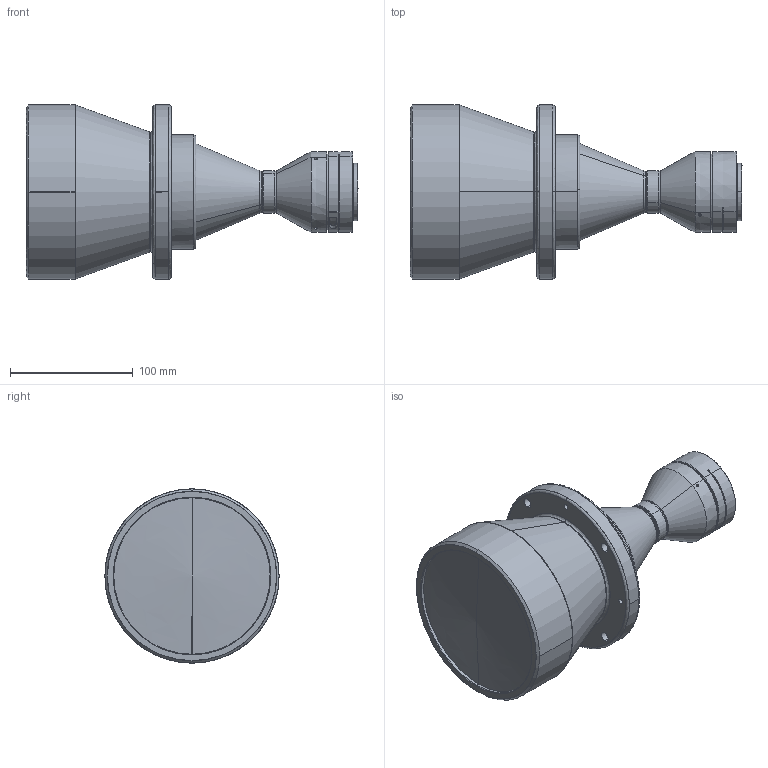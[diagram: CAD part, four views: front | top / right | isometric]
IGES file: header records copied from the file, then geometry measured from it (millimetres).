
Start section: SolidWorks IGES file using analytic representation for surfaces
Global section: file name: D:\----      产品2016.1.20\DTC\DTCM\F+B\－－ AL   可调后截距\100 - AL-ok\DTCM430-100-AL\3D\DTCM430-100-AL.IGS; native system: SolidWorks 2012; preprocessor: SolidWorks 2012; author: frank; date: 160912.154216; units: millimetre
Bounding box: 270.69 x 142 x 142 mm (x, y, z)
Surface area: 120905.4 mm2 (no closed solid volume)
Topology: 0 solids, 0 shells, 142 faces, 3108 edges, 3104 vertices
Faces by surface type: revolution 102, bspline 40
